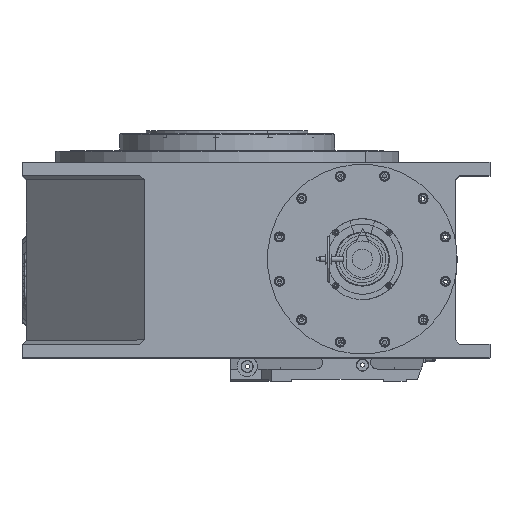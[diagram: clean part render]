
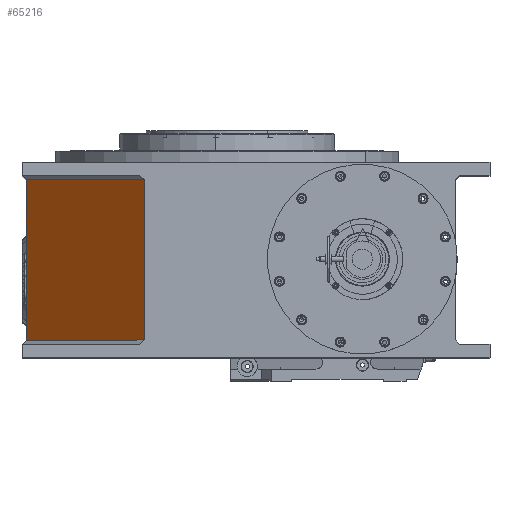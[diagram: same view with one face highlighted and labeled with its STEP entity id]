
A CAD part, top view. The second image highlights one B-rep face of the part: STEP entity #65216.
In plain terms, the highlighted planar face has unit normal (-0.707, 0, 0.707).
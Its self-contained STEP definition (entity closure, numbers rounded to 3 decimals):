
#282 = FACE_OUTER_BOUND ( 'NONE', #16430, .T. ) ;
#499 = LINE ( 'NONE', #70435, #41215 ) ;
#1539 = VERTEX_POINT ( 'NONE', #83264 ) ;
#5981 = VERTEX_POINT ( 'NONE', #88342 ) ;
#5992 = LINE ( 'NONE', #32514, #70589 ) ;
#8911 = ORIENTED_EDGE ( 'NONE', *, *, #18312, .F. ) ;
#8944 = EDGE_CURVE ( 'NONE', #1539, #5981, #499, .T. ) ;
#9756 = ORIENTED_EDGE ( 'NONE', *, *, #38563, .T. ) ;
#15026 = VECTOR ( 'NONE', #21160, 1000. ) ;
#16430 = EDGE_LOOP ( 'NONE', ( #8911, #17667, #56147, #9756 ) ) ;
#17667 = ORIENTED_EDGE ( 'NONE', *, *, #8944, .T. ) ;
#18312 = EDGE_CURVE ( 'NONE', #1539, #86079, #5992, .T. ) ;
#21160 = DIRECTION ( 'NONE',  ( 0.707, 0., 0.707 ) ) ;
#28989 = CARTESIAN_POINT ( 'NONE',  ( 182.511, 270., 298.5 ) ) ;
#31121 = VERTEX_POINT ( 'NONE', #70976 ) ;
#32514 = CARTESIAN_POINT ( 'NONE',  ( 182.511, 270., 298.5 ) ) ;
#38563 = EDGE_CURVE ( 'NONE', #31121, #86079, #48231, .T. ) ;
#41215 = VECTOR ( 'NONE', #81846, 1000. ) ;
#43416 = AXIS2_PLACEMENT_3D ( 'NONE', #28989, #68136, #69895 ) ;
#44197 = CARTESIAN_POINT ( 'NONE',  ( 6., 270., 121.989 ) ) ;
#48231 = LINE ( 'NONE', #69296, #15026 ) ;
#56147 = ORIENTED_EDGE ( 'NONE', *, *, #81003, .T. ) ;
#57203 = VECTOR ( 'NONE', #79744, 1000. ) ;
#65216 = ADVANCED_FACE ( 'NONE', ( #282 ), #83397, .F. ) ;
#68136 = DIRECTION ( 'NONE',  ( 0.707, 0., -0.707 ) ) ;
#69296 = CARTESIAN_POINT ( 'NONE',  ( 182.511, 26., 298.5 ) ) ;
#69895 = DIRECTION ( 'NONE',  ( -0.707, 0., -0.707 ) ) ;
#70435 = CARTESIAN_POINT ( 'NONE',  ( 6., 264., 121.989 ) ) ;
#70589 = VECTOR ( 'NONE', #74724, 1000. ) ;
#70976 = CARTESIAN_POINT ( 'NONE',  ( 6., 26., 121.989 ) ) ;
#72212 = CARTESIAN_POINT ( 'NONE',  ( 182.511, 26., 298.5 ) ) ;
#74724 = DIRECTION ( 'NONE',  ( 0., -1., 0. ) ) ;
#78354 = LINE ( 'NONE', #44197, #57203 ) ;
#79744 = DIRECTION ( 'NONE',  ( 0., -1., 0. ) ) ;
#81003 = EDGE_CURVE ( 'NONE', #5981, #31121, #78354, .T. ) ;
#81846 = DIRECTION ( 'NONE',  ( -0.707, 0., -0.707 ) ) ;
#83264 = CARTESIAN_POINT ( 'NONE',  ( 182.511, 264., 298.5 ) ) ;
#83397 = PLANE ( 'NONE',  #43416 ) ;
#86079 = VERTEX_POINT ( 'NONE', #72212 ) ;
#88342 = CARTESIAN_POINT ( 'NONE',  ( 6., 264., 121.989 ) ) ;
